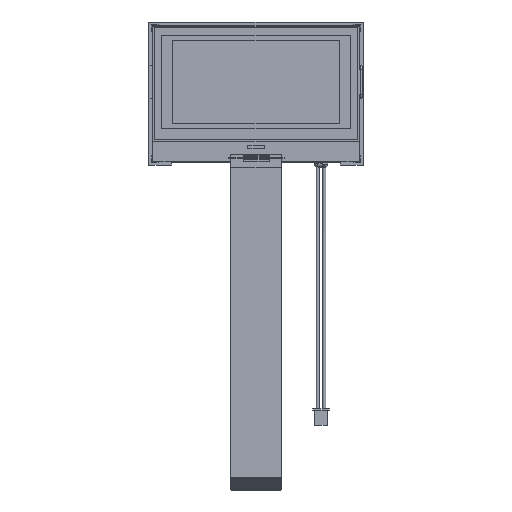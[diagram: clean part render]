
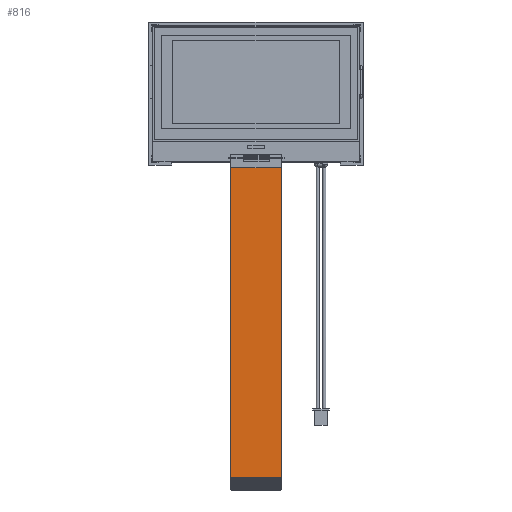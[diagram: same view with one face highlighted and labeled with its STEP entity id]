
A CAD part, top view. The second image highlights one B-rep face of the part: STEP entity #816.
In plain terms, the highlighted planar face has unit normal (0, 0, 1).
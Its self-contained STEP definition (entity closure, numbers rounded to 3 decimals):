
#609 = CARTESIAN_POINT ( 'NONE',  ( -7.75, -140., 3.735 ) ) ;
#696 = CARTESIAN_POINT ( 'NONE',  ( 7.75, -140., 3.735 ) ) ;
#790 = CARTESIAN_POINT ( 'NONE',  ( 0., -92.425, 3.735 ) ) ;
#816 = ADVANCED_FACE ( 'NONE', ( #4387 ), #10732, .T. ) ;
#1630 = EDGE_CURVE ( 'NONE', #3023, #4141, #11317, .T. ) ;
#2063 = AXIS2_PLACEMENT_3D ( 'NONE', #790, #9092, #17627 ) ;
#3023 = VERTEX_POINT ( 'NONE', #10639 ) ;
#3898 = VECTOR ( 'NONE', #6504, 1000. ) ;
#4014 = EDGE_CURVE ( 'NONE', #3023, #13103, #15023, .T. ) ;
#4076 = EDGE_LOOP ( 'NONE', ( #11120, #15690, #10509, #4909 ) ) ;
#4141 = VERTEX_POINT ( 'NONE', #15565 ) ;
#4387 = FACE_OUTER_BOUND ( 'NONE', #4076, .T. ) ;
#4909 = ORIENTED_EDGE ( 'NONE', *, *, #21066, .F. ) ;
#6504 = DIRECTION ( 'NONE',  ( 0., -1., 0. ) ) ;
#7130 = CARTESIAN_POINT ( 'NONE',  ( -7.75, -140., 3.735 ) ) ;
#7274 = DIRECTION ( 'NONE',  ( 0., 1., 0. ) ) ;
#9092 = DIRECTION ( 'NONE',  ( 0., 0., 1. ) ) ;
#10509 = ORIENTED_EDGE ( 'NONE', *, *, #19430, .F. ) ;
#10639 = CARTESIAN_POINT ( 'NONE',  ( 7.75, -44.85, 3.735 ) ) ;
#10732 = PLANE ( 'NONE',  #2063 ) ;
#10988 = DIRECTION ( 'NONE',  ( -1., 0., 0. ) ) ;
#11082 = DIRECTION ( 'NONE',  ( -1., 0., 0. ) ) ;
#11120 = ORIENTED_EDGE ( 'NONE', *, *, #4014, .F. ) ;
#11199 = CARTESIAN_POINT ( 'NONE',  ( 7.75, -44.85, 3.735 ) ) ;
#11317 = LINE ( 'NONE', #11199, #12807 ) ;
#12807 = VECTOR ( 'NONE', #10988, 1000. ) ;
#13103 = VERTEX_POINT ( 'NONE', #696 ) ;
#14468 = LINE ( 'NONE', #19387, #17390 ) ;
#14590 = VERTEX_POINT ( 'NONE', #7130 ) ;
#15023 = LINE ( 'NONE', #16770, #3898 ) ;
#15565 = CARTESIAN_POINT ( 'NONE',  ( -7.75, -44.85, 3.735 ) ) ;
#15588 = LINE ( 'NONE', #609, #19632 ) ;
#15690 = ORIENTED_EDGE ( 'NONE', *, *, #1630, .T. ) ;
#16770 = CARTESIAN_POINT ( 'NONE',  ( 7.75, -44.85, 3.735 ) ) ;
#17390 = VECTOR ( 'NONE', #11082, 1000. ) ;
#17627 = DIRECTION ( 'NONE',  ( 1., 0., 0. ) ) ;
#19387 = CARTESIAN_POINT ( 'NONE',  ( 7.75, -140., 3.735 ) ) ;
#19430 = EDGE_CURVE ( 'NONE', #14590, #4141, #15588, .T. ) ;
#19632 = VECTOR ( 'NONE', #7274, 1000. ) ;
#21066 = EDGE_CURVE ( 'NONE', #13103, #14590, #14468, .T. ) ;
